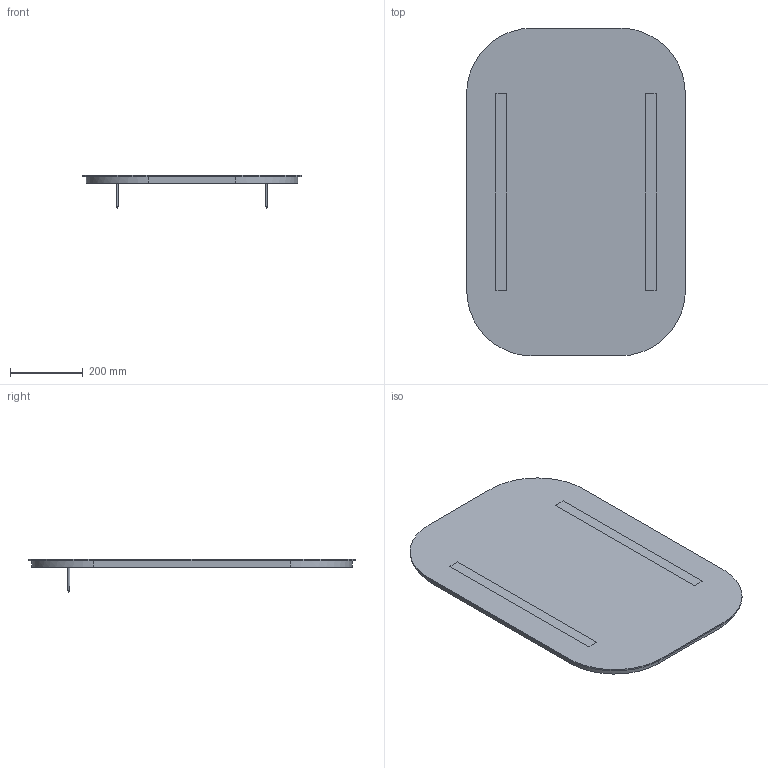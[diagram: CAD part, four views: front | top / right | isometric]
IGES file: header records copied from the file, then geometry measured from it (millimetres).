
Global section: file name: 3D Dosyası,; native system: Autodesk Inventor 2024; preprocessor: unknown; author: pc11; date: 20250710.105118; units: millimetre
Bounding box: 600 x 900 x 92 mm (x, y, z)
Volume: 8210358.1 mm3; surface area: 1855207.7 mm2
Topology: 6 solids, 6 shells, 238 faces, 650 edges, 418 vertices
Faces by surface type: bspline 238
